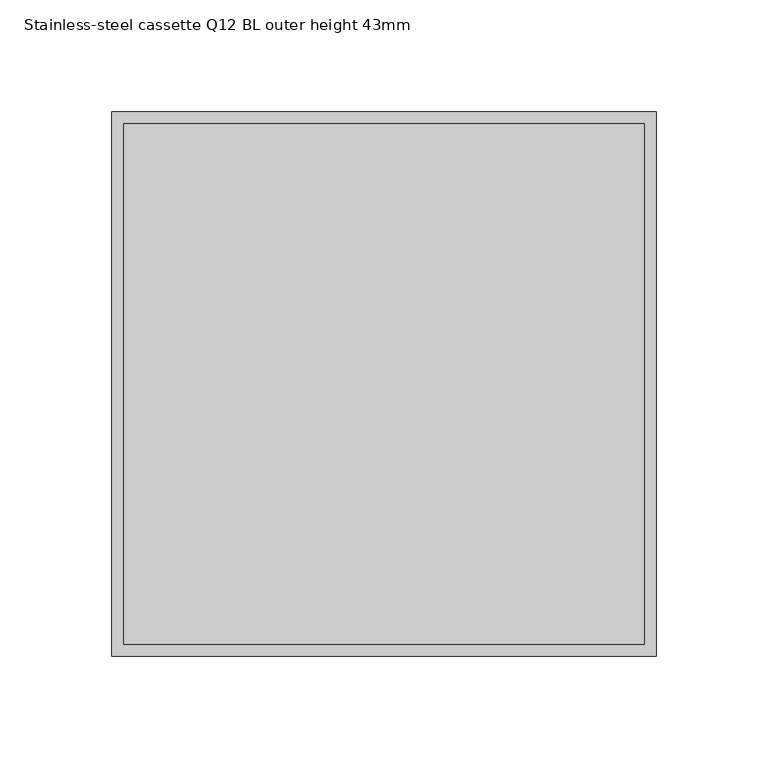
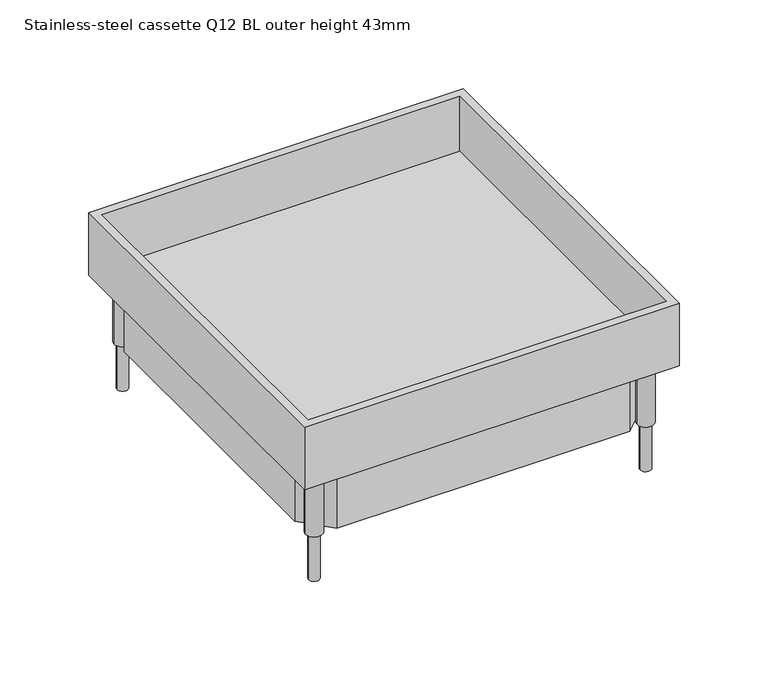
"""IFC4 building model written with IfcOpenShell, lengths in millimetres: proxy geometry, Electrical_Installation_Hager_VE-EE_EKQ-Height-adjustable-stainless-steel-cassette-blank-square-for-damp-cleaned-floors.rfa : Stainless-steel cassette Q12 BL outer height 43mm."""

from ifc_helpers import new_model, si_unit, point, frame, frame_2d, origin, place, context, project, spatial, polyline, circle_curve, trimmed, segment, composite_curve, outline, extrude, source, transform, mapped, element, save


def stainless_steel_cassette_q12_bl_outer_height_43mm_9d157af6(model_context):
    return source(origin(), model_context, "Body", "SweptSolid", [
        extrude(outline(composite_curve([segment(trimmed(circle_curve(frame_2d((-108.0, 108.0)), 3.5), [point((-111.5, 108.0))], [point((-104.5, 108.0))], False, "CARTESIAN"), True, "CONTINUOUS"), segment(trimmed(circle_curve(frame_2d((-108.0, 108.0)), 3.5), [point((-104.5, 108.0))], [point((-111.5, 108.0))], False, "CARTESIAN"), True, "CONTINUOUS")], self_intersect=False)), frame((0.0, 0.0, -115.0), z_axis=(0.0, 0.0, 1.0), x_axis=(1.0, 0.0, 0.0)), (0.0, 0.0, 1.0), 32.0011554),
        extrude(outline(composite_curve([segment(trimmed(circle_curve(frame_2d((108.0, 108.0)), 3.5), [point((104.5, 108.0))], [point((111.5, 108.0))], False, "CARTESIAN"), True, "CONTINUOUS"), segment(trimmed(circle_curve(frame_2d((108.0, 108.0)), 3.5), [point((111.5, 108.0))], [point((104.5, 108.0))], False, "CARTESIAN"), True, "CONTINUOUS")], self_intersect=False)), frame((0.0, 0.0, -115.0), z_axis=(0.0, 0.0, 1.0), x_axis=(1.0, 0.0, 0.0)), (0.0, 0.0, 1.0), 32.0011554),
        extrude(outline(composite_curve([segment(trimmed(circle_curve(frame_2d((108.0, -108.0)), 3.523354), [point((104.476646, -108.0))], [point((111.523354, -108.0))], False, "CARTESIAN"), True, "CONTINUOUS"), segment(trimmed(circle_curve(frame_2d((108.0, -108.0)), 3.523354), [point((111.523354, -108.0))], [point((104.476646, -108.0))], False, "CARTESIAN"), True, "CONTINUOUS")], self_intersect=False)), frame((0.0, 0.0, -115.0), z_axis=(0.0, 0.0, 1.0), x_axis=(1.0, 0.0, 0.0)), (0.0, 0.0, 1.0), 32.0011554),
        extrude(outline(composite_curve([segment(trimmed(circle_curve(frame_2d((-108.0, -108.0)), 3.5), [point((-111.5, -108.0))], [point((-104.5, -108.0))], False, "CARTESIAN"), True, "CONTINUOUS"), segment(trimmed(circle_curve(frame_2d((-108.0, -108.0)), 3.5), [point((-104.5, -108.0))], [point((-111.5, -108.0))], False, "CARTESIAN"), True, "CONTINUOUS")], self_intersect=False)), frame((0.0, 0.0, -115.0), z_axis=(0.0, 0.0, 1.0), x_axis=(1.0, 0.0, 0.0)), (0.0, 0.0, 1.0), 32.0011554),
        extrude(outline(polyline([(4.7, 113.0), (95.3639966, 113.0), (113.0, 96.0470649), (113.0, -95.1394213), (94.7984665, -113.0), (-95.867755, -113.0), (-113.0, -95.1801256), (-113.0, 97.543544), (-95.6272863, 113.0), (4.7, 113.0)]), holes=[polyline([(-110.0, 96.3642535), (-110.0, -94.134929), (-94.4180331, -110.0), (93.4123304, -110.0), (110.0, -94.0355815), (110.0, 94.9312235), (93.9906502, 110.0), (4.7, 110.0), (-94.3203352, 110.0), (-110.0, 96.3642535)])]), frame((0.0, 0.0, -82.0), z_axis=(0.0, 0.0, 1.0), x_axis=(1.0, 0.0, 0.0)), (0.0, 0.0, 1.0), 41.0),
        extrude(outline(polyline([(116.5, 116.5), (116.5, -116.5), (-116.5, -116.5), (-116.5, 116.5), (116.5, 116.5)])), frame((0.0, 0.0, -41.0), z_axis=(0.0, 0.0, 1.0), x_axis=(1.0, 0.0, 0.0)), (0.0, 0.0, 1.0), 5.0),
        extrude(outline(composite_curve([segment(trimmed(circle_curve(frame_2d((-108.0, 108.0)), 5.5), [point((-113.5, 108.0))], [point((-102.5, 108.0))], False, "CARTESIAN"), True, "CONTINUOUS"), segment(trimmed(circle_curve(frame_2d((-108.0, 108.0)), 5.5), [point((-102.5, 108.0))], [point((-113.5, 108.0))], False, "CARTESIAN"), True, "CONTINUOUS")], self_intersect=False)), frame((0.0, 0.0, -82.9988446), z_axis=(0.0, 0.0, 1.0), x_axis=(1.0, 0.0, 0.0)), (0.0, 0.0, 1.0), 41.9988446),
        extrude(outline(composite_curve([segment(trimmed(circle_curve(frame_2d((108.0, 108.0)), 5.5), [point((102.5, 108.0))], [point((113.5, 108.0))], False, "CARTESIAN"), True, "CONTINUOUS"), segment(trimmed(circle_curve(frame_2d((108.0, 108.0)), 5.5), [point((113.5, 108.0))], [point((102.5, 108.0))], False, "CARTESIAN"), True, "CONTINUOUS")], self_intersect=False)), frame((0.0, 0.0, -82.9988446), z_axis=(0.0, 0.0, 1.0), x_axis=(1.0, 0.0, 0.0)), (0.0, 0.0, 1.0), 41.9988446),
        extrude(outline(composite_curve([segment(trimmed(circle_curve(frame_2d((-108.0, -108.0)), 5.5), [point((-113.5, -108.0))], [point((-102.5, -108.0))], False, "CARTESIAN"), True, "CONTINUOUS"), segment(trimmed(circle_curve(frame_2d((-108.0, -108.0)), 5.5), [point((-102.5, -108.0))], [point((-113.5, -108.0))], False, "CARTESIAN"), True, "CONTINUOUS")], self_intersect=False)), frame((0.0, 0.0, -82.9988446), z_axis=(0.0, 0.0, 1.0), x_axis=(1.0, 0.0, 0.0)), (0.0, 0.0, 1.0), 41.9988446),
        extrude(outline(composite_curve([segment(trimmed(circle_curve(frame_2d((108.0, -108.0)), 5.5), [point((102.5, -108.0))], [point((113.5, -108.0))], False, "CARTESIAN"), True, "CONTINUOUS"), segment(trimmed(circle_curve(frame_2d((108.0, -108.0)), 5.5), [point((113.5, -108.0))], [point((102.5, -108.0))], False, "CARTESIAN"), True, "CONTINUOUS")], self_intersect=False)), frame((0.0, 0.0, -82.9988446), z_axis=(0.0, 0.0, 1.0), x_axis=(1.0, 0.0, 0.0)), (0.0, 0.0, 1.0), 41.9988446),
        extrude(outline(polyline([(122.0, 122.0), (122.0, -122.0), (-122.0, -122.0), (-122.0, 122.0), (122.0, 122.0)]), holes=[polyline([(116.5, 116.5), (-116.5, 116.5), (-116.5, -116.5), (116.5, -116.5), (116.5, 116.5)])]), frame((0.0, 0.0, -41.0), z_axis=(0.0, 0.0, 1.0), x_axis=(1.0, 0.0, 0.0)), (0.0, 0.0, 1.0), 43.0),
    ])


if __name__ == "__main__":
    model = new_model("IFC4")
    model_context = context("Model", 3, world=origin())
    ifc_project = project(units=[si_unit("LENGTHUNIT", "METRE", prefix="MILLI")], contexts=[model_context])
    site = spatial("IfcSite", under=ifc_project)
    building = spatial("IfcBuilding", under=site)
    placement = place(None, origin())
    stainless_steel_cassette_q12_bl_outer_height_43mm_shape = stainless_steel_cassette_q12_bl_outer_height_43mm_9d157af6(model_context)
    element("IfcBuildingElementProxy", 1, Name="Electrical_Installation_Hager_VE-EE_EKQ-Height-adjustable-stainless-steel-cassette-blank-square-for-damp-cleaned-floors.rfa : Stainless-steel cassette Q12 BL outer height 43mm", ObjectType="Electrical_Installation_Hager_VE-EE_EKQ-Height-adjustable-stainless-steel-cassette-blank-square-for-damp-cleaned-floors.rfa : Stainless-steel cassette Q12 BL outer height 43mm", at=placement, inside=building, context=model_context, shape_type="MappedRepresentation", body=[
        mapped(stainless_steel_cassette_q12_bl_outer_height_43mm_shape, transform((0.0, 0.0, 0.0), x_axis=(1.0, 0.0, 0.0), y_axis=(0.0, 1.0, 0.0), z_axis=(0.0, 0.0, 1.0))),
    ])
    save(model, "model.ifc")
